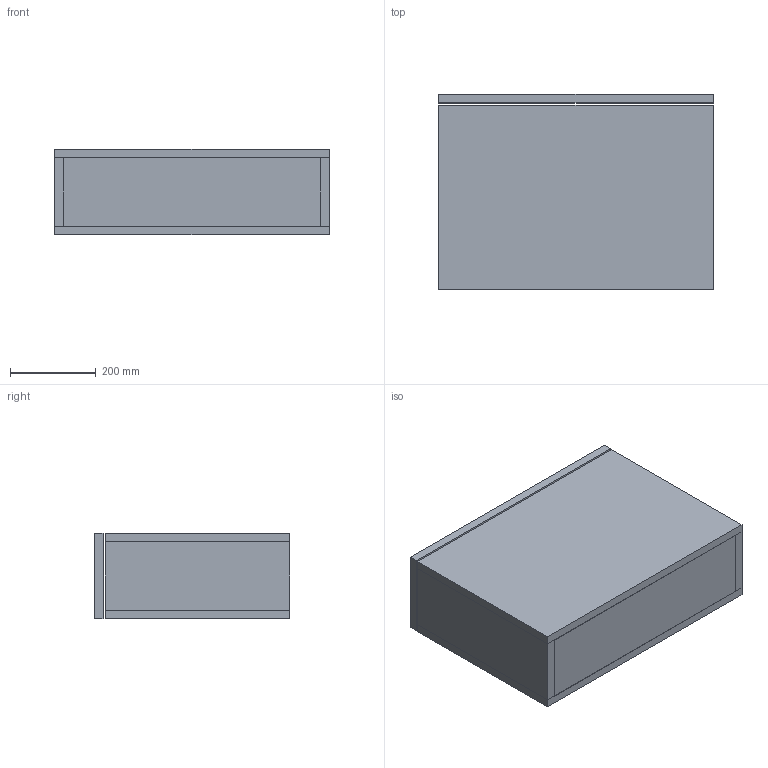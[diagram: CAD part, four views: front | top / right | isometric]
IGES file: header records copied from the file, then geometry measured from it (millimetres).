
Start section: START RECORD GO HERE.
Global section: file name: 8915_3D.igs; native system: DASSAULT SYSTEMES CATIA V5 R19 - www.3ds.com; preprocessor: CATIA Version 5 Release 19 SP 5 ; author: gioge; organization: LAPTOP-G94B6G74; date: 20201024.132315; units: millimetre
Bounding box: 640 x 455 x 200 mm (x, y, z)
Surface area: 2020800 mm2 (no closed solid volume)
Topology: 0 solids, 0 shells, 36 faces, 144 edges, 144 vertices
Faces by surface type: plane 36
